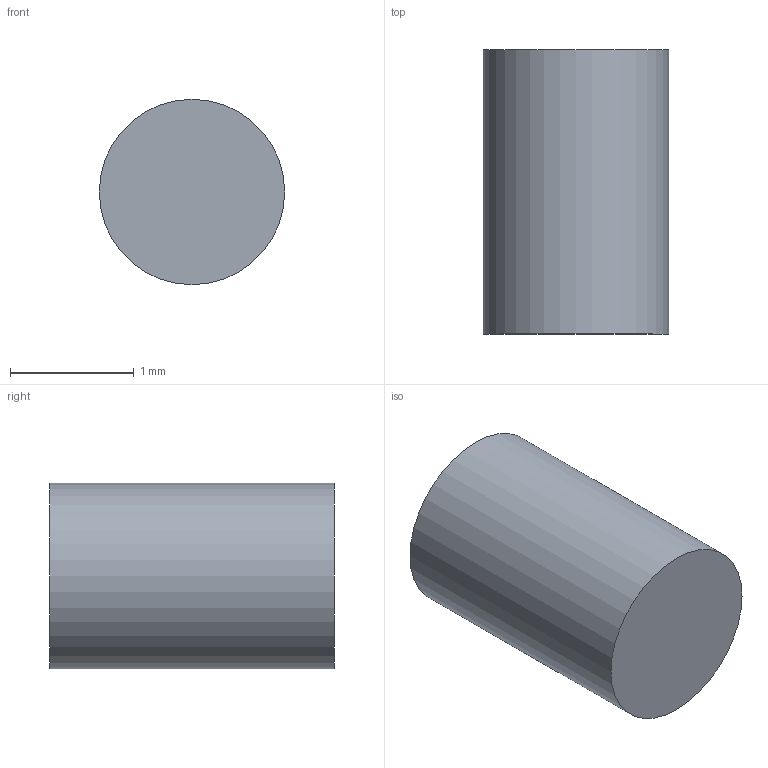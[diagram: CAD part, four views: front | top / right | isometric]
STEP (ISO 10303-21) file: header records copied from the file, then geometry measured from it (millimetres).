
FILE_DESCRIPTION(('Open CASCADE Model'),'2;1');
FILE_NAME('Open CASCADE Shape Model','2026-09-15T14:26:47',('Author'),( 'Open CASCADE'),'Open CASCADE STEP processor 7.7','Open CASCADE 7.7' ,'Unknown');
FILE_SCHEMA(('AUTOMOTIVE_DESIGN { 1 0 10303 214 1 1 1 1 }'));
Length unit declared in the file: millimetre
Products named in the file (1): J9_JOINT_VOLDOWN_COMMON_OUT_D1p5_ALLOWANCE
Bounding box: 1.5 x 2.3 x 1.5 mm (x, y, z)
Volume: 4.1 mm3; surface area: 14.4 mm2
Topology: 1 solids, 1 shells, 3 faces, 3 edges, 2 vertices
Faces by surface type: plane 2, cylinder 1
Full cylindrical faces by diameter (mm): 1.5 x1
Entity records: 108 total; most frequent: DIRECTION 19, CARTESIAN_POINT 15, AXIS2_PLACEMENT_3D 6, ORIENTED_EDGE 6, PCURVE 6, DEFINITIONAL_REPRESENTATION 6, LINE 5, VECTOR 5
